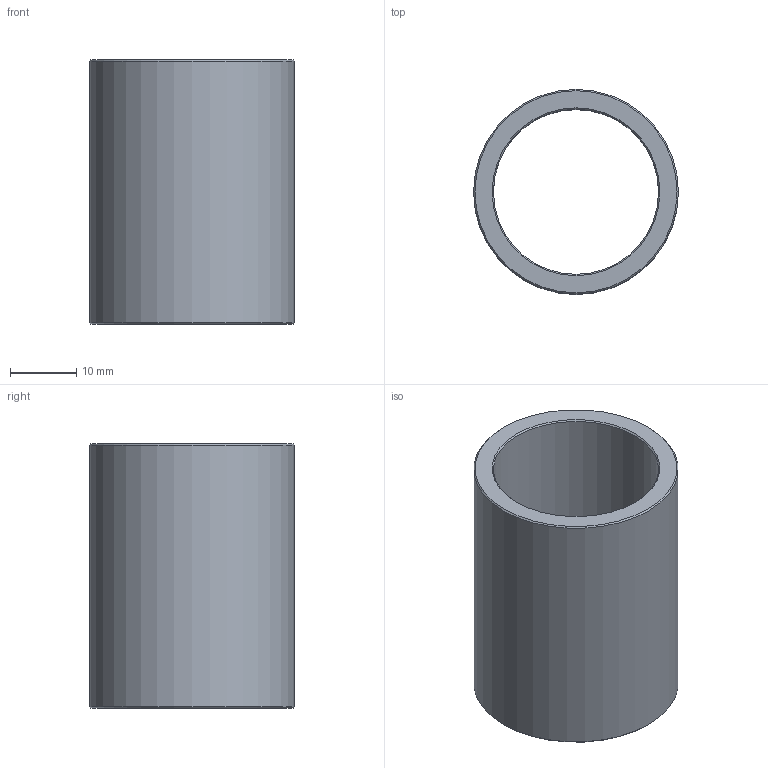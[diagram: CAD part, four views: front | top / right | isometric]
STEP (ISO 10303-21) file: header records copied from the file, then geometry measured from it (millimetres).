
FILE_DESCRIPTION(('STEP AP203'),'1');
FILE_NAME('C:/Users/Rodrigo/Desktop/GA4.025.040-1.step','2016-11-07T16:24:59',(' '),(' '),'Spatial InterOp 3D',' ',' ');
FILE_SCHEMA(('CONFIG_CONTROL_DESIGN'));
Length unit declared in the file: millimetre
Products named in the file (1): 1
Bounding box: 31 x 31 x 40 mm (x, y, z)
Volume: 10548.7 mm3; surface area: 7523.7 mm2
Topology: 1 solids, 1 shells, 8 faces, 14 edges, 8 vertices
Faces by surface type: cone 4, cylinder 2, plane 2
Full cylindrical faces by diameter (mm): 25 x1, 31 x1
Entity records: 212 total; most frequent: DIRECTION 34, CARTESIAN_POINT 25, AXIS2_PLACEMENT_3D 17, EDGE_LOOP 16, ORIENTED_EDGE 16, FACE_OUTER_BOUND 10, ADVANCED_FACE 8, EDGE_CURVE 8
